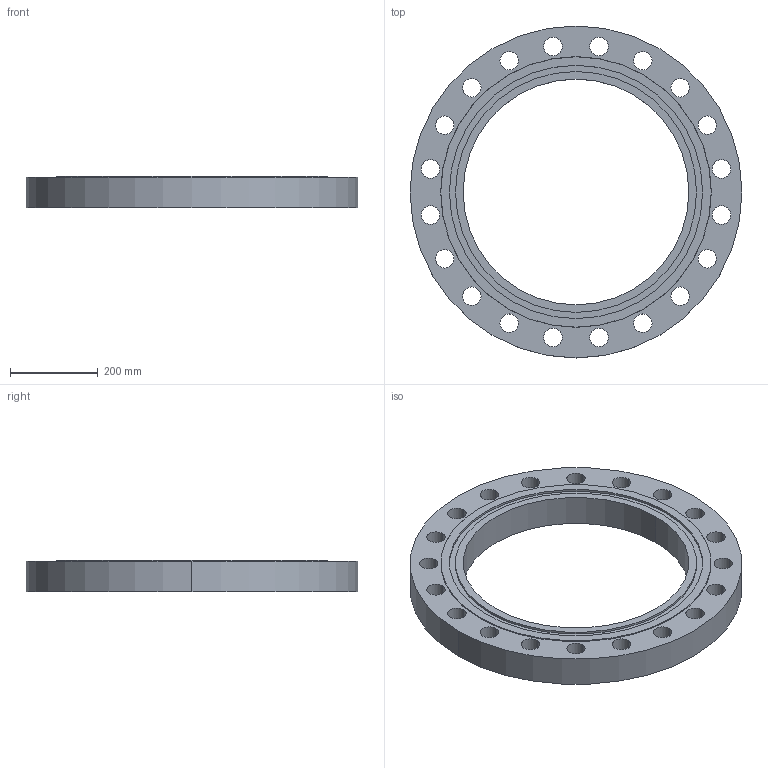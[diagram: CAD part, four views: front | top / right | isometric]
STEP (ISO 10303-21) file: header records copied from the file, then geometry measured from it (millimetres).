
FILE_DESCRIPTION (( 'STEP AP214' ), '1' );
FILE_NAME ('PN40 DN500 Type 01 - Type D Face.STEP', '2018-12-29T01:38:29', ( '' ), ( '' ), 'SwSTEP 2.0', 'SolidWorks 2019', '' );
FILE_SCHEMA (( 'AUTOMOTIVE_DESIGN' ));
Length unit declared in the file: millimetre
Products named in the file (1): PN40 DN500 Type 01 - Type D Face
Bounding box: 755 x 755 x 72 mm (x, y, z)
Volume: 14959467.7 mm3; surface area: 913594.2 mm2
Topology: 1 solids, 1 shells, 55 faces, 150 edges, 100 vertices
Faces by surface type: cylinder 48, plane 5, cone 2
Entity records: 1922 total; most frequent: DIRECTION 362, CARTESIAN_POINT 306, ORIENTED_EDGE 300, AXIS2_PLACEMENT_3D 156, EDGE_CURVE 150, CIRCLE 100, EDGE_LOOP 100, VERTEX_POINT 100
